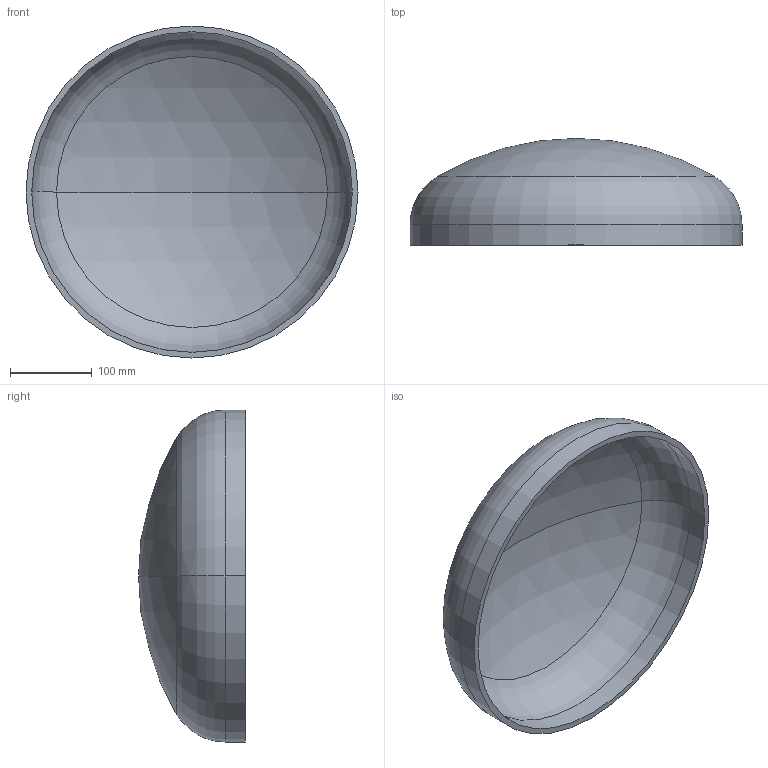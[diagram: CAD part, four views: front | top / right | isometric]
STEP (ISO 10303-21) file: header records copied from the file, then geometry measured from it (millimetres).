
FILE_DESCRIPTION (( 'STEP AP203' ), '1' );
FILE_NAME ('DIN 28013 Korbbogenform_-_Boden DIN 28013 - 406,4 x 25 - I - s=7.step', '2016-07-01T07:48:45', ( '' ), ( '' ), 'SwSTEP 2.0', 'SolidWorks 2013', '' );
FILE_SCHEMA (( 'CONFIG_CONTROL_DESIGN' ));
Length unit declared in the file: millimetre
Products named in the file (1): DIN 28013 Korbbogenform_-_Boden DIN 28013 - 406,4 x 25 - I - s=7
Bounding box: 406.4 x 130.82 x 406.4 mm (x, y, z)
Volume: 1446691.9 mm3; surface area: 422226.3 mm2
Topology: 1 solids, 1 shells, 13 faces, 24 edges, 14 vertices
Faces by surface type: torus 4, cylinder 4, sphere 4, plane 1
Entity records: 407 total; most frequent: DIRECTION 72, CARTESIAN_POINT 52, ORIENTED_EDGE 48, AXIS2_PLACEMENT_3D 34, EDGE_CURVE 24, CIRCLE 20, EDGE_LOOP 14, VERTEX_POINT 14
